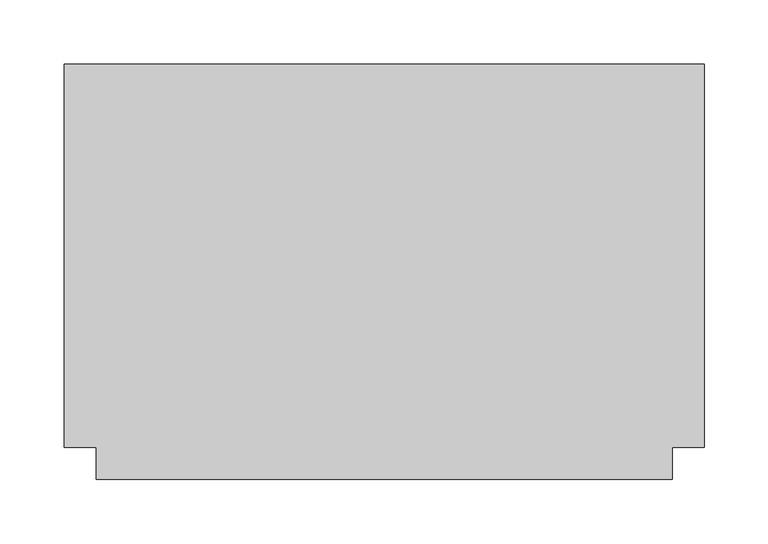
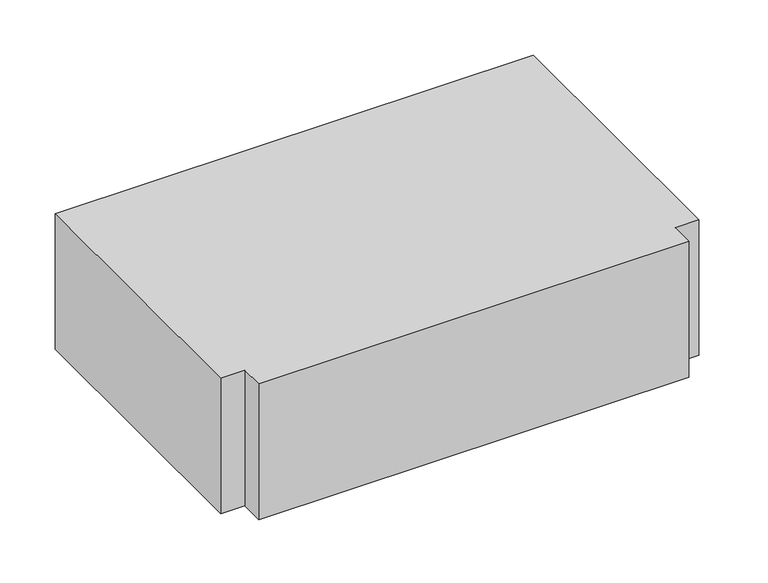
"""IFC4 building model written with IfcOpenShell, lengths in millimetres: duct fitting geometry, M_Te rectangular : Estándar."""

from ifc_helpers import new_model, si_unit, frame, origin, place, context, project, spatial, polyline, outline, extrude, source, transform, mapped, element, save


def duct_fitting_f773b60a(model_context):
    return source(origin(), model_context, "Body", "SweptSolid", [
        extrude(outline(polyline([(-250.0, -150.0), (-250.0, 150.0), (250.0, 150.0), (250.0, -150.0), (225.0, -150.0), (225.0, -175.0), (-225.0, -175.0), (-225.0, -150.0), (-250.0, -150.0)])), frame((0.0, 0.0, -75.0), z_axis=(0.0, 0.0, 1.0), x_axis=(1.0, 0.0, 0.0)), (0.0, 0.0, 1.0), 150.0),
    ])


if __name__ == "__main__":
    model = new_model("IFC4")
    model_context = context("Model", 3, world=origin())
    ifc_project = project(units=[si_unit("LENGTHUNIT", "METRE", prefix="MILLI")], contexts=[model_context])
    site = spatial("IfcSite", under=ifc_project)
    building = spatial("IfcBuilding", under=site)
    placement = place(None, origin())
    duct_fitting_shape = duct_fitting_f773b60a(model_context)
    element("IfcDuctFitting", 1, ObjectType="M_Te rectangular : Estándar", at=placement, inside=building, context=model_context, shape_type="MappedRepresentation", body=[
        mapped(duct_fitting_shape, transform((0.0, 0.0, 0.0), x_axis=(1.0, 0.0, 0.0), y_axis=(0.0, 1.0, 0.0), z_axis=(0.0, 0.0, 1.0))),
    ])
    save(model, "model.ifc")
